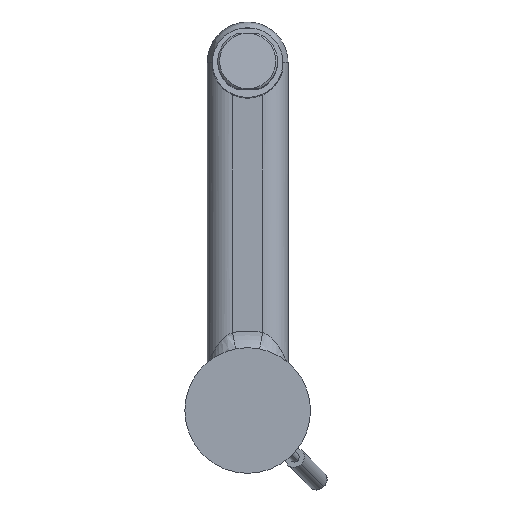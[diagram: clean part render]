
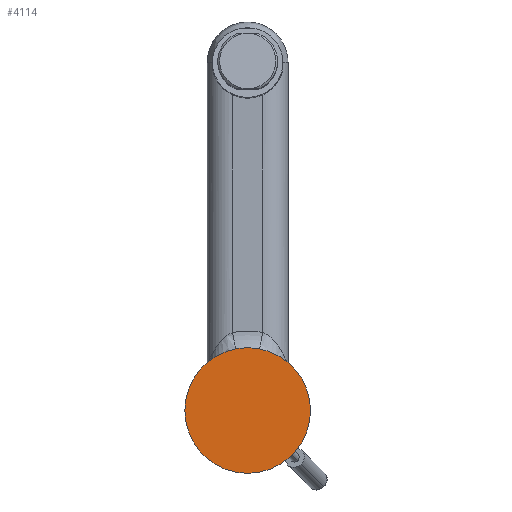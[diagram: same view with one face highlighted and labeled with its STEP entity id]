
A CAD part, front view. The second image highlights one B-rep face of the part: STEP entity #4114.
In plain terms, the highlighted planar face has unit normal (0, -1, 0).
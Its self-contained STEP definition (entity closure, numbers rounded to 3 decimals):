
#344=CARTESIAN_POINT('',(0.,-5.,0.));
#345=DIRECTION('',(0.,1.,0.));
#346=DIRECTION('',(-1.,0.,0.));
#347=AXIS2_PLACEMENT_3D('',#344,#345,#346);
#349=CARTESIAN_POINT('',(0.,-5.,0.));
#350=DIRECTION('',(0.,1.,0.));
#351=DIRECTION('',(1.,0.,0.));
#352=AXIS2_PLACEMENT_3D('',#349,#350,#351);
#3783=CARTESIAN_POINT('',(-24.9,-5.,0.));
#3784=VERTEX_POINT('',#3783);
#3785=CARTESIAN_POINT('',(24.9,-5.,0.));
#3786=VERTEX_POINT('',#3785);
#4105=CARTESIAN_POINT('',(0.,-5.,0.));
#4106=DIRECTION('',(0.,-1.,0.));
#4107=DIRECTION('',(-1.,0.,0.));
#4108=AXIS2_PLACEMENT_3D('',#4105,#4106,#4107);
#4109=PLANE('',#4108);
#4110=ORIENTED_EDGE('',*,*,#4087,.T.);
#4111=ORIENTED_EDGE('',*,*,#4072,.T.);
#4112=EDGE_LOOP('',(#4110,#4111));
#4113=FACE_OUTER_BOUND('',#4112,.F.);
#4114=ADVANCED_FACE('',(#4113),#4109,.T.);
#348=CIRCLE('',#347,24.9);
#353=CIRCLE('',#352,24.9);
#4072=EDGE_CURVE('',#3786,#3784,#353,.T.);
#4087=EDGE_CURVE('',#3784,#3786,#348,.T.);
